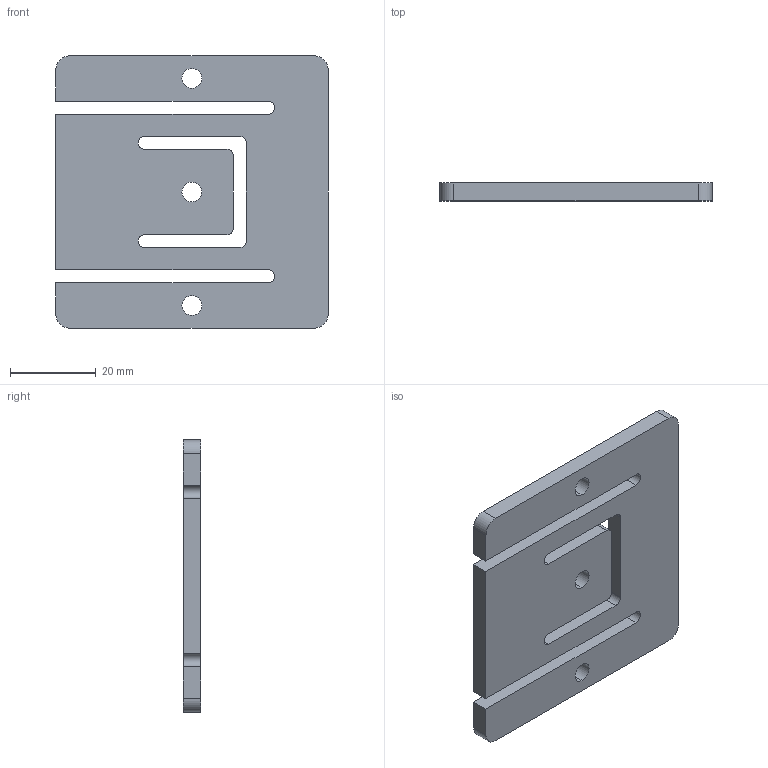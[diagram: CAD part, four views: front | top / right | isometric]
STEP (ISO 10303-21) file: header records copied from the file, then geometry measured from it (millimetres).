
FILE_DESCRIPTION (( 'STEP AP214' ), '1' );
FILE_NAME ('PBW 37.5lb outline.STEP', '2017-08-23T16:58:12', ( '' ), ( '' ), 'SwSTEP 2.0', 'SolidWorks 2017', '' );
FILE_SCHEMA (( 'AUTOMOTIVE_DESIGN' ));
Length unit declared in the file: millimetre
Products named in the file (2): 0043057_1; PBW 37.5lb outline
Assembly tree (1 placements, depth 2):
  PBW 37.5lb outline
    0043057_1
Bounding box: 63.5 x 4.1 x 63.5 mm (x, y, z)
Volume: 14188.3 mm3; surface area: 9523.5 mm2
Topology: 1 solids, 1 shells, 36 faces, 102 edges, 68 vertices
Faces by surface type: cylinder 18, plane 18
Entity records: 1660 total; most frequent: DIRECTION 218, CARTESIAN_POINT 210, ORIENTED_EDGE 204, EDGE_CURVE 102, AXIS2_PLACEMENT_3D 76, VERTEX_POINT 68, VECTOR 66, LINE 66
